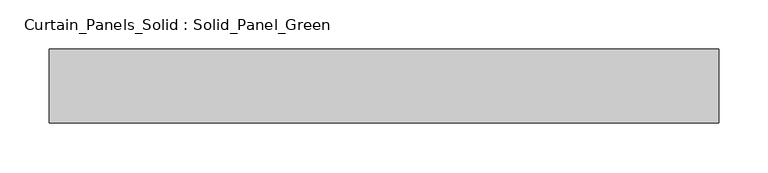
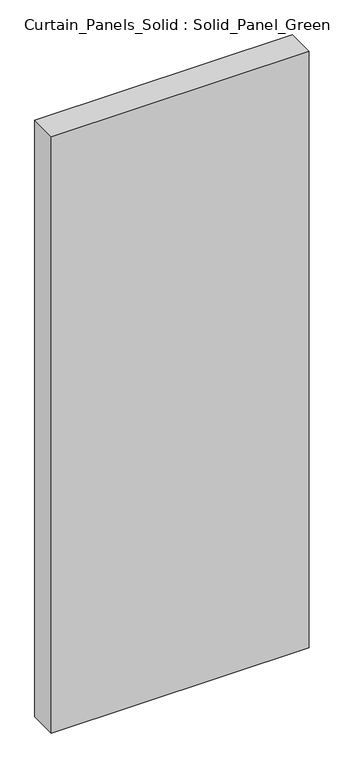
"""IFC4 building model written with IfcOpenShell, lengths in millimetres: plate geometry, Curtain_Panels_Solid : Solid_Panel_Green."""

from ifc_helpers import new_model, si_unit, origin, origin_with_axes, place, context, project, spatial, polyline, outline, extrude, source, transform, mapped, element, save


def curtain_panels_solid_solid_panel_green_c18a3c81(model_context):
    return source(origin(), model_context, "Body", "SweptSolid", [
        extrude(outline(polyline([(338.7500001, -25.0), (-338.7500001, -25.0), (-338.7500001, 50.0), (338.7500001, 50.0), (338.7500001, -25.0)])), origin_with_axes(), (0.0, 0.0, 1.0), 1657.5),
    ])


if __name__ == "__main__":
    model = new_model("IFC4")
    model_context = context("Model", 3, world=origin())
    ifc_project = project(units=[si_unit("LENGTHUNIT", "METRE", prefix="MILLI")], contexts=[model_context])
    site = spatial("IfcSite", under=ifc_project)
    building = spatial("IfcBuilding", under=site)
    placement = place(None, origin())
    curtain_panels_solid_solid_panel_green_shape = curtain_panels_solid_solid_panel_green_c18a3c81(model_context)
    element("IfcPlate", 1, ObjectType="Curtain_Panels_Solid : Solid_Panel_Green", at=placement, inside=building, context=model_context, shape_type="MappedRepresentation", body=[
        mapped(curtain_panels_solid_solid_panel_green_shape, transform((0.0, 0.0, 0.0), x_axis=(1.0, 0.0, 0.0), y_axis=(0.0, 1.0, 0.0), z_axis=(0.0, 0.0, 1.0))),
    ])
    save(model, "model.ifc")
